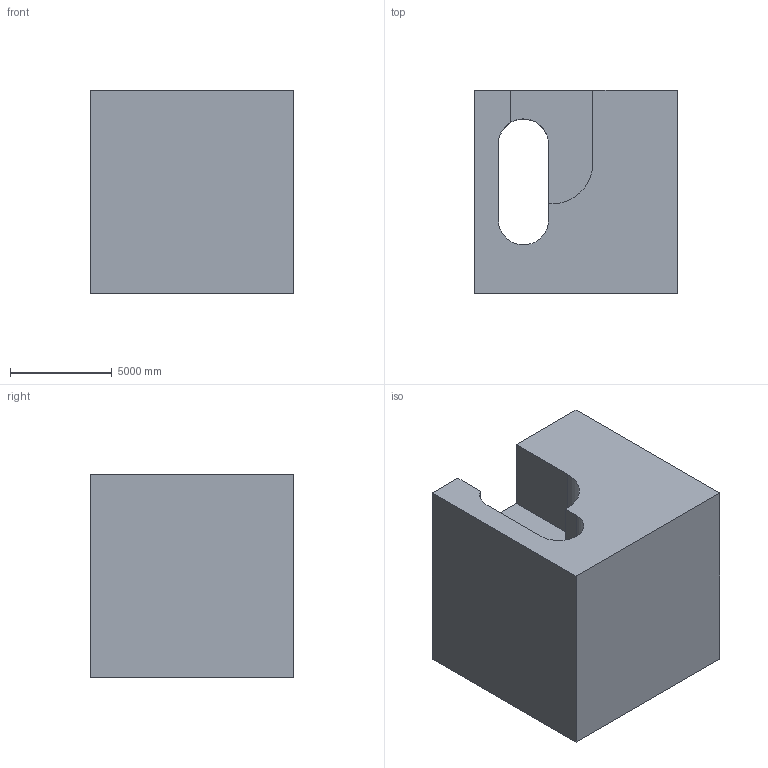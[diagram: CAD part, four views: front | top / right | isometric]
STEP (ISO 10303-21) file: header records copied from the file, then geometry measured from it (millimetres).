
FILE_DESCRIPTION (( 'STEP AP203' ), '1' );
FILE_NAME ('9.STEP', '2022-07-28T13:23:46', ( 'user' ), ( '' ), 'SwSTEP 2.0', 'SolidWorks 2021', '' );
FILE_SCHEMA (( 'CONFIG_CONTROL_DESIGN' ));
Length unit declared in the file: centimetre
Products named in the file (1): 9
Bounding box: 10000 x 10000 x 10000 mm (x, y, z)
Volume: 808889835577 mm3; surface area: 720335426 mm2
Topology: 1 solids, 1 shells, 14 faces, 39 edges, 26 vertices
Faces by surface type: plane 11, cylinder 3
Entity records: 531 total; most frequent: CARTESIAN_POINT 80, ORIENTED_EDGE 78, DIRECTION 76, EDGE_CURVE 39, VECTOR 32, LINE 32, VERTEX_POINT 26, AXIS2_PLACEMENT_3D 22
